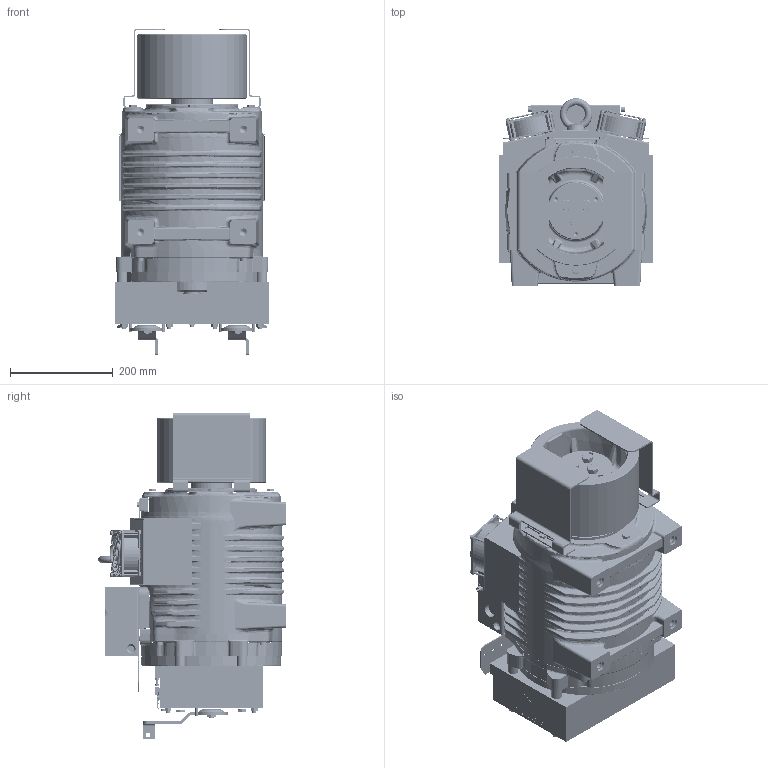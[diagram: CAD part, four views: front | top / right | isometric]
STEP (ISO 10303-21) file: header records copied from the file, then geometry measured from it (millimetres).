
FILE_DESCRIPTION((''),'2;1');
FILE_NAME('00366577_ASM','2023-06-05T12:19:54',('AsgharM'),('Sicor spa'),'CREO PARAMETRIC BY PTC INC, 2022164','CREO PARAMETRIC BY PTC INC, 2022164','');
FILE_SCHEMA(('CONFIG_CONTROL_DESIGN'));
Products named in the file (18): SG30_2023; G__210; _210_125; 00073486; GROWER_M12_GRO0002; TEM12X45_VIT0222; 00246001; M4_FTT_C; 00254619_ASM; 00254091; 00254090; 00254089_ASM; 00257271; 00042420_M4X50; TEM6X12_VIR0184; 00000263; 00257441_ASM; 00366577_ASM
Assembly tree (39 placements, depth 4):
  00366577_ASM
    SG30_2023
    G__210  x2
    _210_125
    00073486
    GROWER_M12_GRO0002  x3
    TEM12X45_VIT0222  x3
    00257441_ASM
      00254619_ASM
        00246001
        M4_FTT_C  x8
      00254089_ASM  x2
        00254091
        00254090
      00257271  x2
      00042420_M4X50  x8
      TEM6X12_VIR0184  x2
      00000263
Bounding box: 300.4 x 364.99 x 635.52 mm (x, y, z)
Volume: 3321440.8 mm3; surface area: 1918631.8 mm2
Topology: 36 solids, 289 shells, 5156 faces, 17606 edges, 12551 vertices
Faces by surface type: plane 2019, cylinder 1232, bspline 1037, torus 432, cone 402, sphere 34
Entity records: 249614 total; most frequent: CARTESIAN_POINT 120747, ORIENTED_EDGE 25158, DIRECTION 24443, EDGE_CURVE 16097, VERTEX_POINT 11662, VECTOR 9167, LINE 9167, AXIS2_PLACEMENT_3D 7638
